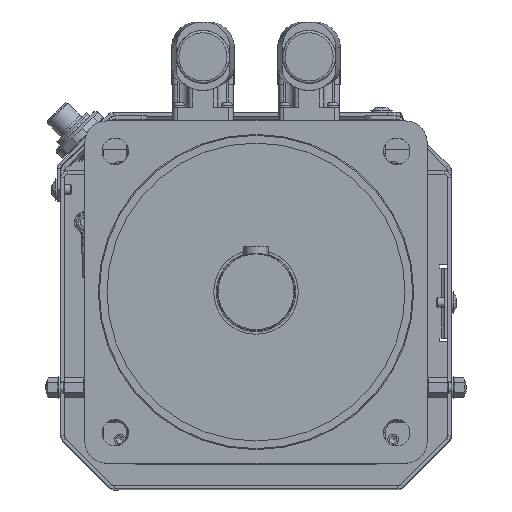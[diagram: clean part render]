
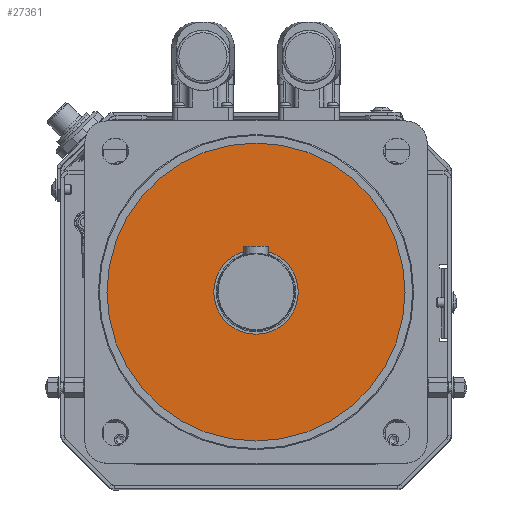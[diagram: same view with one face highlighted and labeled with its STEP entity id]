
A CAD part, top view. The second image highlights one B-rep face of the part: STEP entity #27361.
In plain terms, the highlighted planar face has unit normal (0, 0, 1).
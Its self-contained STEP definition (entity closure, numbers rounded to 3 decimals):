
#2019=FACE_BOUND('',#5309,.T.);
#2572=PLANE('',#29186);
#3654=FACE_OUTER_BOUND('',#5308,.T.);
#5308=EDGE_LOOP('',(#20683));
#5309=EDGE_LOOP('',(#20684));
#7011=CIRCLE('',#28841,17.5);
#7143=CIRCLE('',#29184,61.818);
#12876=VERTEX_POINT('',#39991);
#13286=VERTEX_POINT('',#42013);
#15423=EDGE_CURVE('',#12876,#12876,#7011,.T.);
#16070=EDGE_CURVE('',#13286,#13286,#7143,.T.);
#20683=ORIENTED_EDGE('',*,*,#16070,.T.);
#20684=ORIENTED_EDGE('',*,*,#15423,.T.);
#27361=ADVANCED_FACE('',(#3654,#2019),#2572,.F.);
#28841=AXIS2_PLACEMENT_3D('',#39992,#31936,#31937);
#29184=AXIS2_PLACEMENT_3D('',#42014,#33067,#33068);
#29186=AXIS2_PLACEMENT_3D('',#42017,#33071,#33072);
#31936=DIRECTION('center_axis',(0.,0.,-1.));
#31937=DIRECTION('ref_axis',(0.,1.,0.));
#33067=DIRECTION('center_axis',(0.,0.,1.));
#33068=DIRECTION('ref_axis',(-1.,0.,0.));
#33071=DIRECTION('center_axis',(0.,0.,-1.));
#33072=DIRECTION('ref_axis',(-1.,0.,0.));
#39991=CARTESIAN_POINT('',(0.,17.5,-0.5));
#39992=CARTESIAN_POINT('Origin',(0.,0.,-0.5));
#42013=CARTESIAN_POINT('',(61.818,0.,-0.5));
#42014=CARTESIAN_POINT('Origin',(0.,0.,-0.5));
#42017=CARTESIAN_POINT('Origin',(0.,0.,-0.5));
